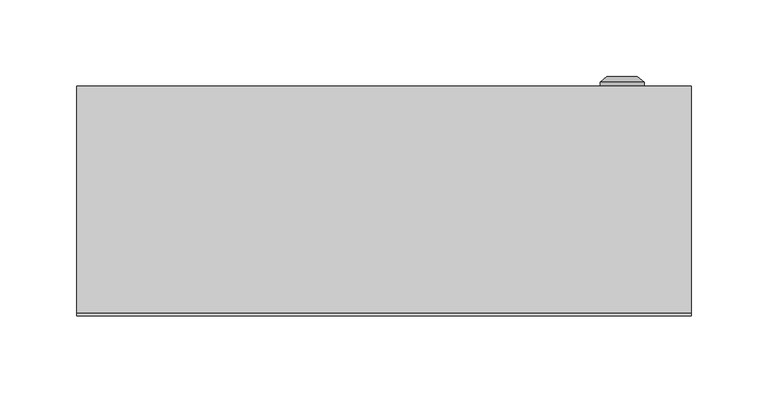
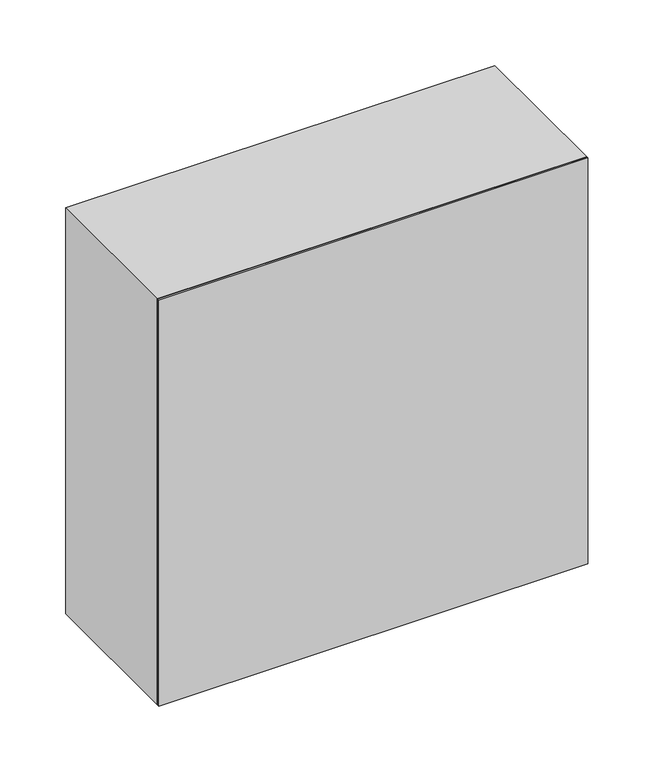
"""IFC4 building model written with IfcOpenShell, lengths in millimetres: proxy geometry, ЩМП : ЩМП-4.4.1-0_400х400х150."""

from ifc_helpers import new_model, si_unit, frame, origin, origin_with_axes, place, context, project, spatial, polyline, circle_curve, outline, extrude, source, transform, mapped, element, save
from ifc_brep_helpers import plane_surface, cylinder_surface, revolved_surface, advanced_brep


def electrical_equipment_c0c13337(model_context):
    return source(origin(), model_context, "Body", "SolidModel", [
        advanced_brep(
        [(140.669873, 150.0, 200.0), (169.330127, 150.0, 200.0), (155.0, 150.0, 200.0), (140.669873, 152.366592, 200.0), (169.330127, 152.366592, 200.0), (145.0, 156.0, 200.0), (165.0, 156.0, 200.0), (153.1080471, 156.0, 200.0), (156.8919529, 156.0, 200.0), (153.1080471, 154.9822294, 200.0), (156.8919529, 154.9822294, 200.0), (155.0, 154.9822294, 200.0)],
        [
            (0, 1, circle_curve(frame((155.0, 150.0, 200.0), z_axis=(0.0, -1.0, 0.0), x_axis=(1.0, 0.0, 0.0)), 14.330127)),
            (1, 2),
            (2, 0),
            (1, 0, circle_curve(frame((155.0, 150.0, 200.0), z_axis=(0.0, -1.0, 0.0), x_axis=(1.0, 0.0, 0.0)), 14.330127)),
            (3, 4, circle_curve(frame((155.0, 152.366592, 200.0), z_axis=(0.0, -1.0, 0.0), x_axis=(1.0, 0.0, 0.0)), 14.330127)),
            (4, 1),
            (0, 3),
            (4, 3, circle_curve(frame((155.0, 152.366592, 200.0), z_axis=(0.0, -1.0, 0.0), x_axis=(1.0, 0.0, 0.0)), 14.330127)),
            (5, 6, circle_curve(frame((155.0, 156.0, 200.0), z_axis=(0.0, -1.0, 0.0), x_axis=(1.0, 0.0, 0.0)), 10.0)),
            (6, 4),
            (3, 5),
            (6, 5, circle_curve(frame((155.0, 156.0, 200.0), z_axis=(0.0, -1.0, 0.0), x_axis=(1.0, 0.0, 0.0)), 10.0)),
            (7, 8, circle_curve(frame((155.0, 156.0, 200.0), z_axis=(0.0, -1.0, 0.0), x_axis=(1.0, 0.0, 0.0)), 1.8919529)),
            (8, 6),
            (5, 7),
            (8, 7, circle_curve(frame((155.0, 156.0, 200.0), z_axis=(0.0, -1.0, 0.0), x_axis=(1.0, 0.0, 0.0)), 1.8919529)),
            (9, 10, circle_curve(frame((155.0, 154.9822294, 200.0), z_axis=(0.0, -1.0, 0.0), x_axis=(1.0, 0.0, 0.0)), 1.8919529)),
            (10, 8),
            (7, 9),
            (10, 9, circle_curve(frame((155.0, 154.9822294, 200.0), z_axis=(0.0, -1.0, 0.0), x_axis=(1.0, 0.0, 0.0)), 1.8919529)),
            (11, 10),
            (9, 11),
        ],
        [
            plane_surface(frame((155.0, 150.0, 200.0), z_axis=(0.0, -1.0, 0.0), x_axis=(1.0, 0.0, 0.0))),
            cylinder_surface(frame((155.0, 163.1348851, 200.0), z_axis=(0.0, 1.0, 0.0), x_axis=(1.0, 0.0, 0.0)), 14.330127),
            revolved_surface(polyline([(169.330127, 152.366592, 200.0), (165.0, 156.0, 200.0)]), (155.0, 163.1348851, 200.0), (0.0, 1.0, 0.0)),
            plane_surface(frame((155.0, 156.0, 200.0), z_axis=(0.0, 1.0, 0.0), x_axis=(1.0, 0.0, 0.0))),
            revolved_surface(polyline([(156.8919529, 156.0, 200.0), (156.8919529, 154.9822294, 200.0)]), (155.0, 163.1348851, 200.0), (0.0, 1.0, 0.0)),
            plane_surface(frame((155.0, 154.9822294, 200.0), z_axis=(0.0, 1.0, 0.0), x_axis=(1.0, 0.0, 0.0))),
        ],
        [
            (0, [[1, 2, 3]]),
            (0, [[4, -3, -2]]),
            (1, [[5, 6, -1, 7]]),
            (1, [[8, -7, -4, -6]]),
            (2, [[9, 10, -5, 11]]),
            (2, [[12, -11, -8, -10]]),
            (3, [[13, 14, -9, 15]]),
            (3, [[16, -15, -12, -14]]),
            (4, [[17, 18, -13, 19]]),
            (4, [[20, -19, -16, -18]]),
            (5, [[21, -17, 22]]),
            (5, [[-22, -20, -21]]),
        ],
    ),
        extrude(outline(polyline([(181.5, 125.0), (-181.5, 125.0), (-181.5, 150.0), (181.5, 150.0), (181.5, 125.0)])), frame((0.0, 0.0, 18.5), z_axis=(0.0, 0.0, 1.0), x_axis=(1.0, 0.0, 0.0)), (0.0, 0.0, 1.0), 363.0),
        extrude(outline(polyline([(400.0, -200.0033905), (0.0, -200.0033905), (0.0, 199.9966095), (400.0, 199.9966095), (400.0, -200.0033905)]), holes=[polyline([(365.0, -165.0033905), (365.0, 164.9966095), (35.0, 164.9966095), (35.0, -165.0033905), (365.0, -165.0033905)])]), frame((0.0, 2.0, 0.0), z_axis=(0.0, 1.0, 0.0), x_axis=(0.0, 0.0, 1.0)), (0.0, 0.0, 1.0), 148.0),
        extrude(outline(polyline([(200.0, 0.0), (-200.0, 0.0), (-200.0, 2.0), (200.0, 2.0), (200.0, 0.0)])), origin_with_axes(), (0.0, 0.0, 1.0), 400.0),
    ])


if __name__ == "__main__":
    model = new_model("IFC4")
    model_context = context("Model", 3, world=origin())
    ifc_project = project(units=[si_unit("LENGTHUNIT", "METRE", prefix="MILLI")], contexts=[model_context])
    site = spatial("IfcSite", under=ifc_project)
    building = spatial("IfcBuilding", under=site)
    placement = place(None, origin())
    electrical_equipment_shape = electrical_equipment_c0c13337(model_context)
    element("IfcBuildingElementProxy", 1, Name="ЩМП : ЩМП-4.4.1-0_400х400х150", ObjectType="ЩМП : ЩМП-4.4.1-0_400х400х150", at=placement, inside=building, context=model_context, shape_type="MappedRepresentation", body=[
        mapped(electrical_equipment_shape, transform((0.0, 0.0, 0.0), x_axis=(1.0, 0.0, 0.0), y_axis=(0.0, 1.0, 0.0), z_axis=(0.0, 0.0, 1.0))),
    ])
    save(model, "model.ifc")
